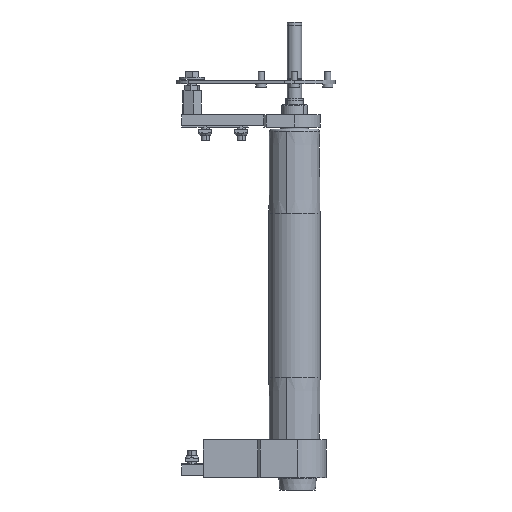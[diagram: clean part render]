
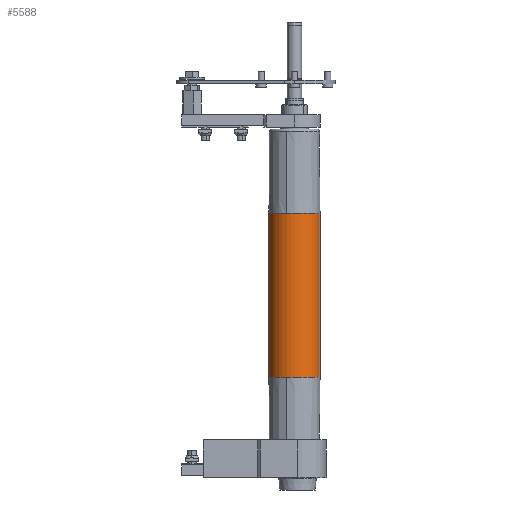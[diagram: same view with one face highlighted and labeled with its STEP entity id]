
A CAD part, front view. The second image highlights one B-rep face of the part: STEP entity #5588.
In plain terms, the highlighted cylindrical face has radius 25 mm (diameter 50 mm), a partial arc.
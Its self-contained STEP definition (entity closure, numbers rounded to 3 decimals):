
#140 = CARTESIAN_POINT ( 'NONE',  ( -80., 0., -25. ) ) ;
#657 = CARTESIAN_POINT ( 'NONE',  ( 160., 0., 25. ) ) ;
#754 = ORIENTED_EDGE ( 'NONE', *, *, #15481, .F. ) ;
#1325 = VERTEX_POINT ( 'NONE', #11315 ) ;
#1336 = CARTESIAN_POINT ( 'NONE',  ( 80., 0., 0. ) ) ;
#1359 = VERTEX_POINT ( 'NONE', #140 ) ;
#1454 = CARTESIAN_POINT ( 'NONE',  ( -80., 0., 0. ) ) ;
#1613 = CIRCLE ( 'NONE', #15037, 25. ) ;
#2092 = CARTESIAN_POINT ( 'NONE',  ( -80., 0., 25. ) ) ;
#2599 = VECTOR ( 'NONE', #11562, 1000. ) ;
#2661 = DIRECTION ( 'NONE',  ( -1., 0., 0. ) ) ;
#3265 = DIRECTION ( 'NONE',  ( 0., 0., 1. ) ) ;
#5020 = CIRCLE ( 'NONE', #21241, 25. ) ;
#5203 = AXIS2_PLACEMENT_3D ( 'NONE', #7673, #2661, #5825 ) ;
#5373 = VERTEX_POINT ( 'NONE', #5914 ) ;
#5539 = EDGE_LOOP ( 'NONE', ( #9627, #22117, #19728, #754, #18420, #19841 ) ) ;
#5588 = ADVANCED_FACE ( 'NONE', ( #7668 ), #13222, .T. ) ;
#5683 = CARTESIAN_POINT ( 'NONE',  ( 80., 0., 0. ) ) ;
#5825 = DIRECTION ( 'NONE',  ( 0., -1., 0. ) ) ;
#5914 = CARTESIAN_POINT ( 'NONE',  ( 80., 0., 25. ) ) ;
#6620 = DIRECTION ( 'NONE',  ( -1., 0., 0. ) ) ;
#7668 = FACE_OUTER_BOUND ( 'NONE', #5539, .T. ) ;
#7673 = CARTESIAN_POINT ( 'NONE',  ( -80., 0., 0. ) ) ;
#8423 = DIRECTION ( 'NONE',  ( 0., -1., 0. ) ) ;
#8461 = DIRECTION ( 'NONE',  ( 0., -1., 0. ) ) ;
#8658 = EDGE_CURVE ( 'NONE', #5373, #21297, #10383, .T. ) ;
#9627 = ORIENTED_EDGE ( 'NONE', *, *, #17419, .T. ) ;
#10383 = LINE ( 'NONE', #657, #18593 ) ;
#10410 = EDGE_CURVE ( 'NONE', #12023, #1359, #17428, .T. ) ;
#11315 = CARTESIAN_POINT ( 'NONE',  ( -80., 25., 0. ) ) ;
#11562 = DIRECTION ( 'NONE',  ( -1., 0., 0. ) ) ;
#12023 = VERTEX_POINT ( 'NONE', #22295 ) ;
#12677 = DIRECTION ( 'NONE',  ( 0., -1., 0. ) ) ;
#13222 = CYLINDRICAL_SURFACE ( 'NONE', #18532, 25. ) ;
#13955 = CIRCLE ( 'NONE', #15515, 25. ) ;
#14588 = DIRECTION ( 'NONE',  ( -1., 0., 0. ) ) ;
#15037 = AXIS2_PLACEMENT_3D ( 'NONE', #1454, #15666, #8461 ) ;
#15211 = CARTESIAN_POINT ( 'NONE',  ( 160., 0., 0. ) ) ;
#15481 = EDGE_CURVE ( 'NONE', #1325, #1359, #1613, .T. ) ;
#15515 = AXIS2_PLACEMENT_3D ( 'NONE', #5683, #16271, #12677 ) ;
#15666 = DIRECTION ( 'NONE',  ( -1., 0., 0. ) ) ;
#16271 = DIRECTION ( 'NONE',  ( -1., 0., 0. ) ) ;
#17419 = EDGE_CURVE ( 'NONE', #5373, #19393, #13955, .T. ) ;
#17428 = LINE ( 'NONE', #20318, #2599 ) ;
#17511 = EDGE_CURVE ( 'NONE', #21297, #1325, #19948, .T. ) ;
#18420 = ORIENTED_EDGE ( 'NONE', *, *, #17511, .F. ) ;
#18532 = AXIS2_PLACEMENT_3D ( 'NONE', #15211, #18636, #3265 ) ;
#18593 = VECTOR ( 'NONE', #14588, 1000. ) ;
#18636 = DIRECTION ( 'NONE',  ( -1., 0., 0. ) ) ;
#19393 = VERTEX_POINT ( 'NONE', #21281 ) ;
#19728 = ORIENTED_EDGE ( 'NONE', *, *, #10410, .T. ) ;
#19841 = ORIENTED_EDGE ( 'NONE', *, *, #8658, .F. ) ;
#19948 = CIRCLE ( 'NONE', #5203, 25. ) ;
#20318 = CARTESIAN_POINT ( 'NONE',  ( 160., 0., -25. ) ) ;
#20977 = EDGE_CURVE ( 'NONE', #19393, #12023, #5020, .T. ) ;
#21241 = AXIS2_PLACEMENT_3D ( 'NONE', #1336, #6620, #8423 ) ;
#21281 = CARTESIAN_POINT ( 'NONE',  ( 80., 25., 0. ) ) ;
#21297 = VERTEX_POINT ( 'NONE', #2092 ) ;
#22117 = ORIENTED_EDGE ( 'NONE', *, *, #20977, .T. ) ;
#22295 = CARTESIAN_POINT ( 'NONE',  ( 80., 0., -25. ) ) ;
